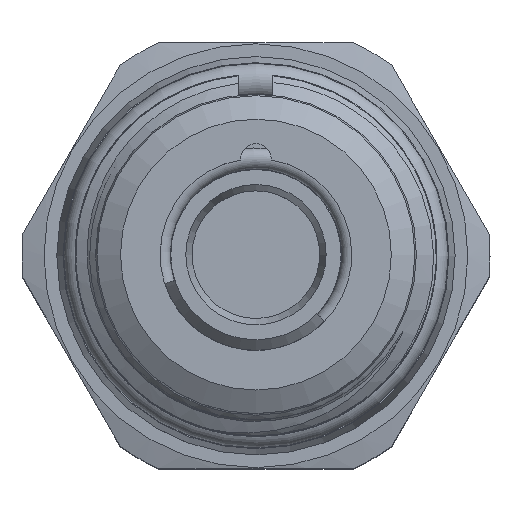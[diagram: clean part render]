
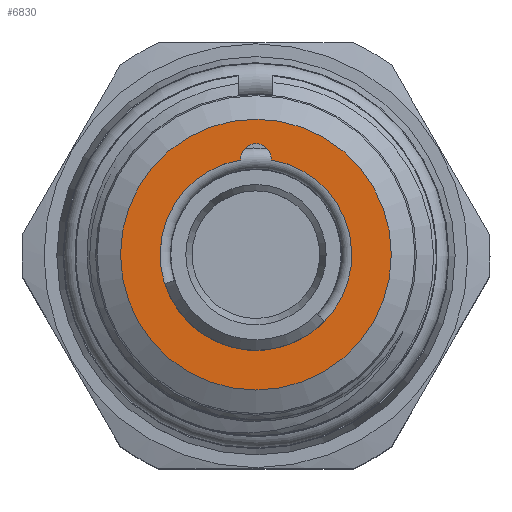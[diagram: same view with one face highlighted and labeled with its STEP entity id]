
A CAD part, top view. The second image highlights one B-rep face of the part: STEP entity #6830.
In plain terms, the highlighted planar face has unit normal (0, 0, 1).
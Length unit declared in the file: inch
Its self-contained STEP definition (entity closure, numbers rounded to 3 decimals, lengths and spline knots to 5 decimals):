
#182=FACE_BOUND('',#1051,.T.);
#233=PLANE('',#7152);
#762=FACE_OUTER_BOUND('',#1050,.T.);
#1050=EDGE_LOOP('',(#6109,#6110));
#1051=EDGE_LOOP('',(#6111,#6112));
#1959=CIRCLE('',#7149,0.045);
#1961=CIRCLE('',#7153,0.39772);
#1962=CIRCLE('',#7154,0.39772);
#1963=CIRCLE('',#7155,0.28143);
#3073=VERTEX_POINT('',#28139);
#3074=VERTEX_POINT('',#28141);
#3076=VERTEX_POINT('',#28171);
#3077=VERTEX_POINT('',#28172);
#4127=EDGE_CURVE('',#3074,#3073,#1959,.T.);
#4131=EDGE_CURVE('',#3076,#3077,#1961,.T.);
#4132=EDGE_CURVE('',#3077,#3076,#1962,.T.);
#4133=EDGE_CURVE('',#3073,#3074,#1963,.T.);
#6109=ORIENTED_EDGE('',*,*,#4131,.T.);
#6110=ORIENTED_EDGE('',*,*,#4132,.T.);
#6111=ORIENTED_EDGE('',*,*,#4127,.T.);
#6112=ORIENTED_EDGE('',*,*,#4133,.T.);
#6830=ADVANCED_FACE('',(#762,#182),#233,.T.);
#7149=AXIS2_PLACEMENT_3D('',#28142,#7863,#7864);
#7152=AXIS2_PLACEMENT_3D('',#28170,#7870,#7871);
#7153=AXIS2_PLACEMENT_3D('',#28173,#7872,#7873);
#7154=AXIS2_PLACEMENT_3D('',#28174,#7874,#7875);
#7155=AXIS2_PLACEMENT_3D('',#28175,#7876,#7877);
#7863=DIRECTION('center_axis',(0.,0.,
-1.));
#7864=DIRECTION('ref_axis',(0.,-1.,0.));
#7870=DIRECTION('center_axis',(0.,0.,
1.));
#7871=DIRECTION('ref_axis',(0.,1.,0.));
#7872=DIRECTION('center_axis',(0.,0.,
1.));
#7873=DIRECTION('ref_axis',(-1.,0.,0.));
#7874=DIRECTION('center_axis',(0.,0.,
1.));
#7875=DIRECTION('ref_axis',(-1.,0.,0.));
#7876=DIRECTION('center_axis',(0.,0.,
-1.));
#7877=DIRECTION('ref_axis',(-1.,0.,0.));
#28139=CARTESIAN_POINT('',(0.04489,0.27782,3.524));
#28141=CARTESIAN_POINT('',(-0.04489,0.27782,3.524));
#28142=CARTESIAN_POINT('Origin',(0.,0.281,
3.524));
#28170=CARTESIAN_POINT('Origin',(-0.19886,0.,
3.524));
#28171=CARTESIAN_POINT('',(-0.39772,0.,3.524));
#28172=CARTESIAN_POINT('',(0.39772,0.,3.524));
#28173=CARTESIAN_POINT('Origin',(0.,0.,
3.524));
#28174=CARTESIAN_POINT('Origin',(0.,0.,
3.524));
#28175=CARTESIAN_POINT('Origin',(0.,0.,
3.524));
